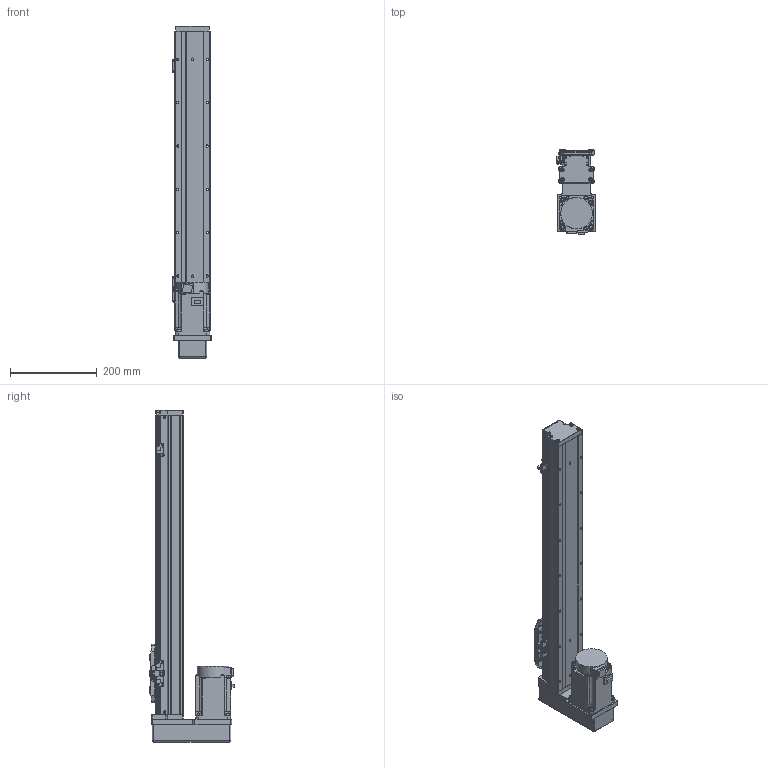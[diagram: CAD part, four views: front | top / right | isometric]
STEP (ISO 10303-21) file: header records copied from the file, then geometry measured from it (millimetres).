
FILE_DESCRIPTION (( 'STEP AP203' ), '1' );
FILE_NAME ('GTH8-500-BM-M75-C4.step', '2023-02-14T02:28:53', ( '微软用户' ), ( '微软中国' ), 'SwSTEP 2.0', 'SolidWorks 2020', '' );
FILE_SCHEMA (( 'CONFIG_CONTROL_DESIGN' ));
Length unit declared in the file: millimetre
Products named in the file (18): CTHA86-035; GTH80-004; GTH80-028; hg-kn73j_-s100; GTH80-006; GTH50-024; GTH8-500-BM-M75-C4; GTH80-013; GTH50-023; GBT 70.3-M3℅6; GBT96.1-2002 3×0.8; GTH80-022; BTH-M3X5X6; GTH80-001_500; GBT 70.1-M3℅6; CTHA86-015-3_CTHA86-015-4; GTH80-003; GBT 70.1-M4×16
Assembly tree (57 placements, depth 2):
  GTH8-500-BM-M75-C4
    GTH80-001_500
    GTH80-003
    GTH80-004
    GTH80-006
    GTH80-013
    GBT 70.3-M3℅6  x4
    GTH80-022
    GBT 70.1-M3℅6  x14
    GBT 70.1-M4×16  x8
    GTH80-028  x2
    GTH50-024  x3
    GTH50-023  x3
    GBT96.1-2002 3×0.8  x6
    BTH-M3X5X6  x8
    CTHA86-015-3_CTHA86-015-4
    CTHA86-035
    hg-kn73j_-s100
Bounding box: 89.4 x 195.3 x 766 mm (x, y, z)
Volume: 4534601.8 mm3; surface area: 471925.5 mm2
Topology: 59 solids, 59 shells, 2191 faces, 5082 edges, 3112 vertices
Faces by surface type: plane 1153, cylinder 623, cone 243, torus 158, sphere 12, bspline 2
Entity records: 39440 total; most frequent: CARTESIAN_POINT 6623, DIRECTION 6501, ORIENTED_EDGE 5974, EDGE_CURVE 2987, AXIS2_PLACEMENT_3D 2290, VECTOR 1921, LINE 1921, VERTEX_POINT 1887
